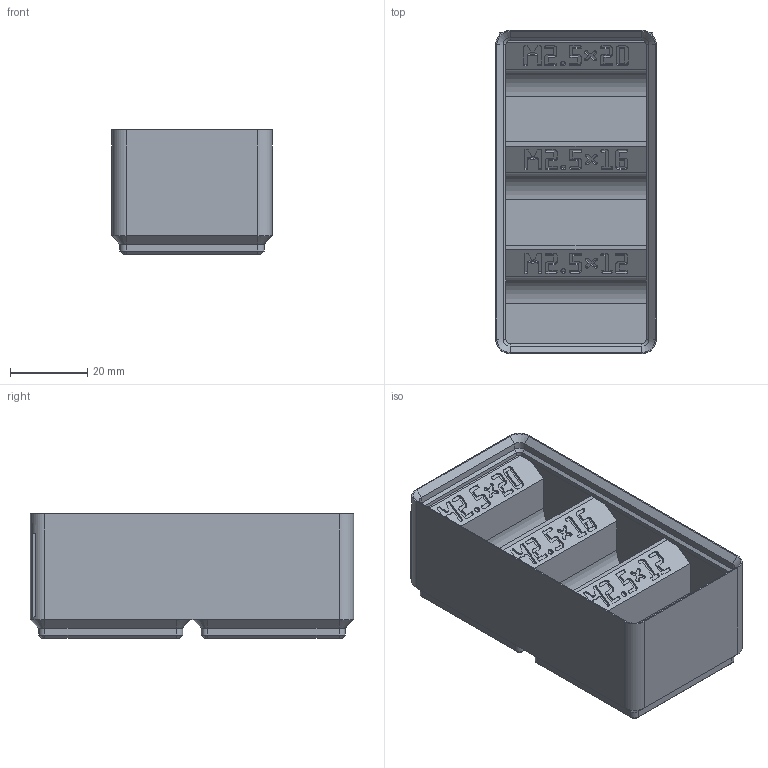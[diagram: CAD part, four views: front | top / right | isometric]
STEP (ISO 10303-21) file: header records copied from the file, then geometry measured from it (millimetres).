
FILE_DESCRIPTION(('Open CASCADE Model'),'2;1');
FILE_NAME('Open CASCADE Shape Model','2026-11-16T17:23:18',('Author'),( 'Open CASCADE'),'Open CASCADE STEP processor 8.0','build123d', 'Unknown');
FILE_SCHEMA(('AUTOMOTIVE_DESIGN { 1 0 10303 214 1 1 1 1 }'));
Products named in the file (1): COMPOUND
Bounding box: 41.5 x 83.5 x 32.1 mm (x, y, z)
Volume: 46066.6 mm3; surface area: 22511.4 mm2
Topology: 1 solids, 1 shells, 2153 faces, 6307 edges, 4184 vertices
Faces by surface type: plane 2100, cone 28, cylinder 25
Entity records: 151652 total; most frequent: CARTESIAN_POINT 25695, DIRECTION 22983, LINE 18487, VECTOR 18487, ORIENTED_EDGE 12614, PCURVE 12614, DEFINITIONAL_REPRESENTATION 12614, EDGE_CURVE 6307
